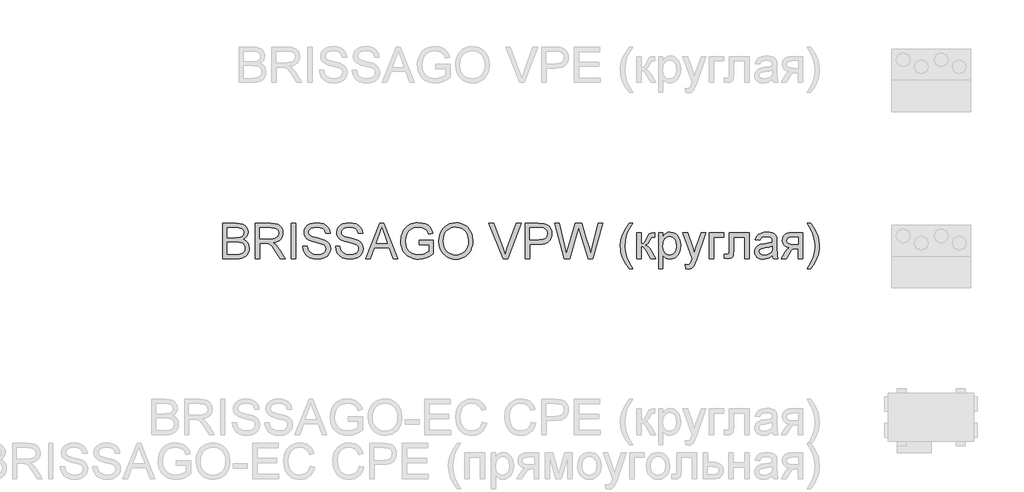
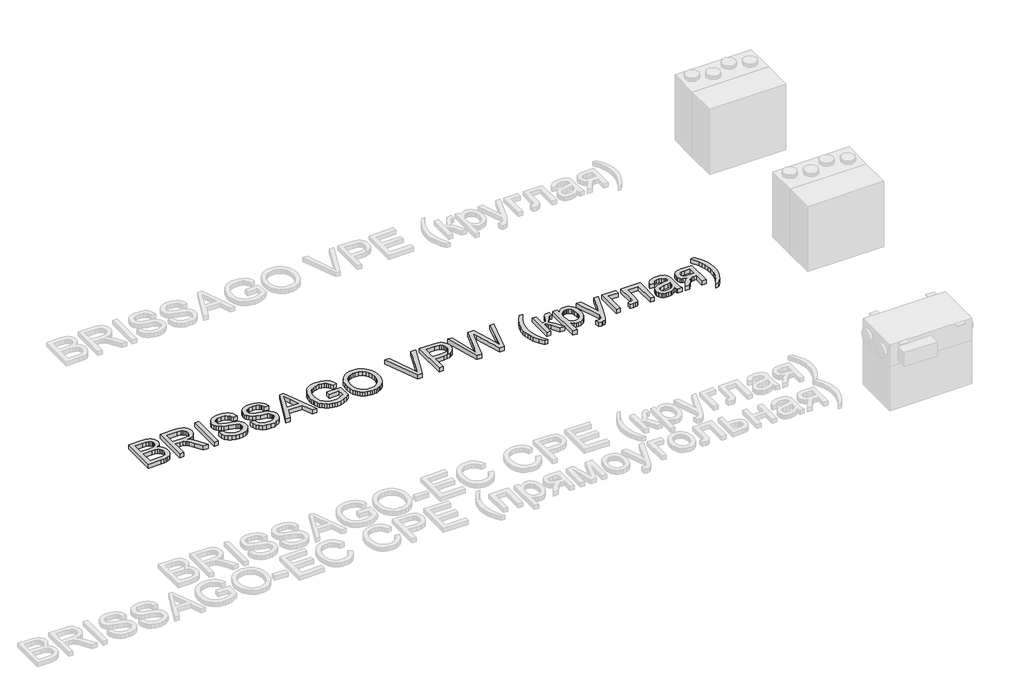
# One storey, part 13 of 28: 1 proxy.
"""IFC4 building model written with IfcOpenShell, lengths in millimetres."""

from ifc_helpers import new_model, si_unit, origin, origin_with_axes, place, context, project, spatial, polyline, outline, extrude, element, save

model = new_model("IFC4")

# Units and contexts
model_context = context("Model", 3, world=origin())
ifc_project = project(units=[si_unit("LENGTHUNIT", "METRE", prefix="MILLI")], contexts=[model_context])

# Site, building, storey
site = spatial("IfcSite", under=ifc_project)
building = spatial("IfcBuilding", under=site)
storey = spatial("IfcBuildingStorey", under=building, Name="Уровень 1", Elevation=0.0)

# Proxy
placement = place(None, origin())
element("IfcBuildingElementProxy", 1, Name="400 мм Arial", ObjectType="400 мм Arial", at=placement, inside=storey, context=model_context, shape_type="SweptSolid", body=[
    extrude(outline(polyline([(-28721.9590067, -348.6932142), (-28721.9590067, 53.1320263), (-28568.6257911, 53.1320263), (-28526.4542517, 50.1767077), (-28493.5288132, 41.3107516), (-28468.2921083, 26.3134289), (-28449.18677, 4.9640104), (-28437.1570288, -20.1500671), (-28433.147115, -46.441367), (-28436.5193667, -70.6357396), (-28446.6361215, -93.3831096), (-28463.570956, -113.2855255), (-28487.3974466, -128.9450358), (-28458.9356429, -143.8074684), (-28437.9050555, -166.4199484), (-28424.9188211, -195.2864223), (-28420.5900763, -228.9108366), (-28423.545395, -256.9311819), (-28432.411351, -282.9159135), (-28445.6428401, -305.0133587), (-28461.6947579, -321.3718447), (-28481.3519191, -333.217645), (-28505.3991389, -341.7770327), (-28534.621232, -346.9641689), (-28569.8030135, -348.6932142), (-28721.9590067, -348.6932142)]), holes=[polyline([(-28671.7308516, -110.1094776), (-28580.0056075, -110.1094776), (-28526.441989, -105.7929956), (-28507.69227, -98.3495165), (-28494.2155262, -87.2026921), (-28486.0853341, -72.5242005), (-28483.3752701, -54.48572), (-28485.9013931, -36.974537), (-28493.4797622, -21.7196969), (-28505.7670209, -9.812583), (-28522.4198125, -2.3445785), (-28547.9753485, 1.5917588), (-28586.9708399, 2.9038713), (-28671.7308516, 2.9038713), (-28671.7308516, -110.1094776)]), polyline([(-28671.7308516, -298.4650592), (-28568.723893, -298.4650592), (-28531.4451841, -296.5030219), (-28499.9054344, -285.5646639), (-28488.3294143, -276.1346221), (-28479.0097371, -263.2464895), (-28472.8661078, -247.4766146), (-28470.8182313, -229.4013459), (-28473.221727, -208.4075468), (-28480.4322141, -190.3568035), (-28493.0260411, -176.2423976), (-28511.5795564, -167.0576105), (-28537.8585936, -162.0176272), (-28573.6289863, -160.3376327), (-28671.7308516, -160.3376327), (-28671.7308516, -298.4650592)])]), origin_with_axes(), (0.0, 0.0, 1.0), 50.0),
    extrude(outline(polyline([(-28351.526363, -348.6932142), (-28351.526363, 53.1320263), (-28178.3765706, 53.1320263), (-28131.8394982, 50.4219623), (-28097.982092, 42.2917702), (-28073.2358964, 27.2821848), (-28054.0324563, 3.9339409), (-28041.7084094, -25.0183722), (-28037.6003938, -56.8401647), (-28039.301848, -77.4783447), (-28044.4062107, -96.4242674), (-28052.9134819, -113.677933), (-28064.8236615, -129.2393414), (-28080.2900337, -142.6118519), (-28099.4658827, -153.2988239), (-28122.3512085, -161.3002573), (-28148.946011, -166.6161521), (-28120.3983682, -188.1004606), (-28079.6860941, -239.8001437), (-28012.68252, -348.6932142), (-28071.0531299, -348.6932142), (-28123.3414242, -265.4047305), (-28161.1106423, -210.2714822), (-28175.1514718, -194.195039), (-28187.6471969, -184.2254369), (-28211.5350011, -174.6605051), (-28240.6712552, -172.8946715), (-28301.298208, -172.8946715), (-28301.298208, -348.6932142), (-28351.526363, -348.6932142)]), holes=[polyline([(-28301.298208, -122.6665164), (-28188.8734702, -122.6665164), (-28156.5856938, -120.8884201), (-28131.5329299, -115.5541312), (-28112.6728463, -106.3080304), (-28098.9631106, -92.7944984), (-28090.6121893, -76.4482751), (-28087.8285489, -58.7041002), (-28093.1383124, -34.2031593), (-28109.0676027, -14.4601589), (-28121.2291684, -6.8633957), (-28136.4748114, -1.4371363), (-28176.2183296, 2.9038713), (-28301.298208, 2.9038713), (-28301.298208, -122.6665164)])]), origin_with_axes(), (0.0, 0.0, 1.0), 50.0),
    extrude(outline(polyline([(-27943.4226031, -348.6932142), (-27943.4226031, 53.1320263), (-27893.194448, 53.1320263), (-27893.194448, -348.6932142), (-27943.4226031, -348.6932142)])), origin_with_axes(), (0.0, 0.0, 1.0), 50.0),
    extrude(outline(polyline([(-27811.573696, -210.5657878), (-27761.3455409, -210.5657878), (-27755.5820563, -238.4389803), (-27745.1587331, -260.8429938), (-27728.8983489, -278.6239569), (-27705.6236814, -292.6279982), (-27677.1741404, -301.7146835), (-27645.389136, -304.7435786), (-27617.4055789, -302.4504475), (-27592.904638, -295.5710541), (-27573.051273, -284.6817471), (-27559.0104436, -270.3588747), (-27550.6595223, -253.9145496), (-27547.8758818, -236.660884), (-27549.9605465, -219.8486768), (-27556.2145404, -205.317338), (-27568.918732, -192.9197148), (-27590.3539895, -182.5086543), (-27663.4889302, -163.3297396), (-27711.4975306, -150.6378108), (-27742.2156772, -138.5590186), (-27767.2193901, -121.6609723), (-27784.9390395, -101.1822079), (-27795.4972528, -77.5641838), (-27799.0166572, -51.2483584), (-27794.6633869, -21.8300615), (-27781.6035761, 5.6016726), (-27760.1805813, 28.8518147), (-27730.7377589, 45.7253355), (-27695.3965619, 55.9892432), (-27656.2784431, 59.4105457), (-27613.8984372, 55.8298276), (-27576.8159321, 45.0876734), (-27546.3553029, 27.4048122), (-27523.8409248, 3.0019731), (-27509.5916289, -26.6002647), (-27503.9262461, -59.8813226), (-27554.1544012, -59.8813226), (-27563.3759766, -29.9112027), (-27571.7391606, -18.0531397), (-27582.6039422, -8.2797414), (-27612.6476385, 4.8168576), (-27654.3164058, 9.1823907), (-27696.9661918, 4.8659086), (-27713.2694955, -0.529694), (-27726.2250731, -8.0835376), (-27743.1476449, -27.139825), (-27748.7885021, -49.7768304), (-27744.7908511, -69.0783724), (-27732.7978981, -84.6029926), (-27704.446459, -98.4844066), (-27650.7847386, -112.6601261), (-27595.4062356, -126.1246072), (-27561.9044486, -137.8723055), (-27533.2709666, -156.094727), (-27513.2949743, -178.5845797), (-27501.5595386, -205.0966088), (-27497.6477268, -235.3855597), (-27502.1481498, -266.348961), (-27515.6494191, -295.4729523), (-27537.5997114, -320.5379789), (-27567.447204, -339.3244861), (-27603.340224, -351.0599218), (-27643.4270987, -354.9717336), (-27692.6374469, -350.7533534), (-27733.1412546, -338.0982128), (-27765.4045056, -316.9572608), (-27789.8931837, -287.2814465), (-27805.6140077, -251.1309091), (-27811.573696, -210.5657878)])), origin_with_axes(), (0.0, 0.0, 1.0), 50.0),
    extrude(outline(polyline([(-27441.1410523, -210.5657878), (-27390.9128972, -210.5657878), (-27385.1494126, -238.4389803), (-27374.7260894, -260.8429938), (-27358.4657053, -278.6239569), (-27335.1910377, -292.6279982), (-27306.7414967, -301.7146835), (-27274.9564924, -304.7435786), (-27246.9729353, -302.4504475), (-27222.4719944, -295.5710541), (-27202.6186294, -284.6817471), (-27188.5777999, -270.3588747), (-27180.2268786, -253.9145496), (-27177.4432382, -236.660884), (-27179.5279028, -219.8486768), (-27185.7818967, -205.317338), (-27198.4860883, -192.9197148), (-27219.9213459, -182.5086543), (-27293.0562865, -163.3297396), (-27341.0648869, -150.6378108), (-27371.7830335, -138.5590186), (-27396.7867464, -121.6609723), (-27414.5063959, -101.1822079), (-27425.0646091, -77.5641838), (-27428.5840135, -51.2483584), (-27424.2307433, -21.8300615), (-27411.1709324, 5.6016726), (-27389.7479376, 28.8518147), (-27360.3051152, 45.7253355), (-27324.9639182, 55.9892432), (-27285.8457994, 59.4105457), (-27243.4657936, 55.8298276), (-27206.3832884, 45.0876734), (-27175.9226592, 27.4048122), (-27153.4082811, 3.0019731), (-27139.1589852, -26.6002647), (-27133.4936025, -59.8813226), (-27183.7217575, -59.8813226), (-27192.9433329, -29.9112027), (-27201.3065169, -18.0531397), (-27212.1712985, -8.2797414), (-27242.2149948, 4.8168576), (-27283.8837621, 9.1823907), (-27326.5335481, 4.8659086), (-27342.8368518, -0.529694), (-27355.7924294, -8.0835376), (-27372.7150012, -27.139825), (-27378.3558585, -49.7768304), (-27374.3582074, -69.0783724), (-27362.3652544, -84.6029926), (-27334.0138153, -98.4844066), (-27280.3520949, -112.6601261), (-27224.9735919, -126.1246072), (-27191.4718049, -137.8723055), (-27162.838323, -156.094727), (-27142.8623306, -178.5845797), (-27131.126895, -205.0966088), (-27127.2150831, -235.3855597), (-27131.7155062, -266.348961), (-27145.2167754, -295.4729523), (-27167.1670678, -320.5379789), (-27197.0145603, -339.3244861), (-27232.9075803, -351.0599218), (-27272.994455, -354.9717336), (-27322.2048033, -350.7533534), (-27362.7086109, -338.0982128), (-27394.9718619, -316.9572608), (-27419.4605401, -287.2814465), (-27435.181364, -251.1309091), (-27441.1410523, -210.5657878)])), origin_with_axes(), (0.0, 0.0, 1.0), 50.0),
    extrude(outline(polyline([(-27098.6674403, -348.6932142), (-26938.2708904, 53.1320263), (-26895.4984771, 53.1320263), (-26735.1019272, -348.6932142), (-26788.1750363, -348.6932142), (-26834.1848112, -223.1228266), (-26999.6826581, -223.1228266), (-27045.5943311, -348.6932142), (-27098.6674403, -348.6932142)]), holes=[polyline([(-26981.2395074, -172.8946715), (-26852.52986, -172.8946715), (-26888.7294483, -74.106093), (-26916.8846837, 2.9038713), (-26941.9006594, -65.4731289), (-26981.2395074, -172.8946715)])]), origin_with_axes(), (0.0, 0.0, 1.0), 50.0),
    extrude(outline(polyline([(-26493.0846253, -191.7302296), (-26493.0846253, -141.5020746), (-26329.8431213, -141.5020746), (-26329.8431213, -291.6960305), (-26369.5130631, -319.2871801), (-26410.4338037, -339.0792314), (-26452.5072412, -350.9986081), (-26495.6352738, -354.9717336), (-26524.4864192, -353.3929067), (-26551.9825327, -348.656426), (-26578.1236141, -340.7622916), (-26602.9096636, -329.7105033), (-26625.5405376, -315.6666081), (-26645.216093, -298.796153), (-26661.9363297, -279.0991378), (-26675.7012477, -256.5755627), (-26686.452599, -231.9458631), (-26694.1321356, -205.9304747), (-26698.7398576, -178.5293974), (-26700.275765, -149.7426313), (-26694.1566611, -93.1501177), (-26686.5077813, -66.3345859), (-26675.7993495, -40.5062042), (-26662.2214382, -16.7992753), (-26645.9641197, 3.651898), (-26627.027394, 20.8473156), (-26605.4112611, 34.7869775), (-26581.5847706, 45.5597886), (-26556.0169719, 53.2546537), (-26528.7078651, 57.8715727), (-26499.6574502, 59.4105457), (-26458.2829885, 55.8420904), (-26421.0778561, 45.1367243), (-26389.7465728, 28.0669997), (-26365.9936587, 5.4054688), (-26348.421162, -23.9392516), (-26335.6311313, -61.058545), (-26381.9352118, -74.106093), (-26392.2726959, -47.6308521), (-26404.8419974, -27.6548598), (-26421.4702635, -12.5962235), (-26443.9846416, -0.8730505), (-26470.8277646, 6.6685304), (-26500.4422652, 9.1823907), (-26535.1090119, 6.4723266), (-26564.7480379, -1.6578655), (-26589.2489788, -14.1903788), (-26608.5014699, -30.1074064), (-26623.2780634, -48.5873453), (-26634.3513114, -68.8085923), (-26646.1235353, -106.7249633), (-26650.0476099, -147.6824921), (-26645.3264576, -195.7156179), (-26631.1630008, -235.2384069), (-26607.9864351, -265.9688163), (-26576.2259562, -287.624803), (-26539.0576119, -300.4638847), (-26499.6574502, -304.7435786), (-26464.8680762, -301.5184797), (-26430.9370935, -291.8431833), (-26401.4697457, -278.5135923), (-26380.0712763, -264.32561), (-26380.0712763, -191.7302296), (-26493.0846253, -191.7302296)])), origin_with_axes(), (0.0, 0.0, 1.0), 50.0),
    extrude(outline(polyline([(-26267.0579274, -153.0780947), (-26263.7102013, -105.9462797), (-26253.6670228, -64.2223301), (-26236.928392, -27.9062458), (-26213.4943089, 3.0019731), (-26184.7688565, 27.6807237), (-26152.1561176, 45.3084026), (-26115.6560923, 55.8850099), (-26075.2687806, 59.4105457), (-26048.2355853, 57.7550768), (-26022.5635534, 52.7886698), (-25998.2526849, 44.5113249), (-25975.3029798, 32.9230421), (-25954.3582315, 18.3733092), (-25936.0622336, 1.2116141), (-25920.4149861, -18.5620431), (-25907.4164889, -40.9476626), (-25897.2016322, -65.4363407), (-25889.905306, -91.5191742), (-25884.068245, -148.467307), (-25885.6041523, -178.1247272), (-25890.2118743, -206.1757293), (-25897.891411, -232.6203134), (-25908.6427623, -257.4584794), (-25922.2114765, -280.0341712), (-25938.343102, -299.6913325), (-25957.0376387, -316.4299633), (-25978.2950867, -330.2500636), (-26001.2785143, -341.0657942), (-26025.1509901, -348.7913161), (-26049.9125141, -353.4266293), (-26075.5630862, -354.9717336), (-26103.0683967, -353.264148), (-26129.0776538, -348.1413913), (-26153.5908574, -339.6034633), (-26176.6080076, -327.6503641), (-26197.5282303, -312.745012), (-26215.7506518, -295.3503249), (-26231.275272, -275.4663031), (-26244.1020909, -253.0929464), (-26261.3189683, -204.4712094), (-26267.0579274, -153.0780947)]), holes=[polyline([(-26216.8297724, -153.568604), (-26214.3189777, -186.8680559), (-26206.7865939, -216.4273742), (-26194.2326208, -242.2465589), (-26176.6570585, -264.32561), (-26155.2923116, -282.0084713), (-26131.3707849, -294.6390864), (-26104.8924783, -302.2174555), (-26075.8573918, -304.7435786), (-26046.3256646, -302.1929301), (-26019.5346583, -294.5409846), (-25995.4843729, -281.7877421), (-25974.1748083, -263.9332026), (-25956.7280047, -241.3881676), (-25944.2660021, -214.5634388), (-25936.7888006, -183.4590161), (-25934.2964001, -148.0748995), (-25938.5638312, -103.6102291), (-25951.3661246, -65.1788233), (-25972.3721866, -33.7494382), (-26001.2509232, -10.2908296), (-26036.0893481, 4.3140856), (-26074.974475, 9.1823907), (-26103.0009517, 6.8371429), (-26129.0040774, -0.1986002), (-26152.9838521, -11.9248388), (-26174.9402758, -28.3415728), (-26193.2669306, -50.2397486), (-26206.3573982, -78.4103124), (-26214.2116788, -112.8532642), (-26216.8297724, -153.568604)])]), origin_with_axes(), (0.0, 0.0, 1.0), 50.0),
    extrude(outline(polyline([(-25539.33829, -348.6932142), (-25699.2443306, 53.1320263), (-25645.4845084, 53.1320263), (-25538.4553733, -236.3665784), (-25516.774861, -301.6043189), (-25495.3886543, -236.3665784), (-25388.0652136, 53.1320263), (-25334.3053914, 53.1320263), (-25487.4424033, -348.6932142), (-25539.33829, -348.6932142)])), origin_with_axes(), (0.0, 0.0, 1.0), 50.0),
    extrude(outline(polyline([(-25287.6089035, -348.6932142), (-25287.6089035, 53.1320263), (-25138.6902718, 53.1320263), (-25078.6519302, 49.3060536), (-25051.8823837, 42.1568802), (-25029.8462522, 30.5195464), (-25012.1020773, 13.8667547), (-24998.2084006, -8.3287923), (-24989.2320799, -34.5097276), (-24986.239973, -63.1186841), (-24988.2602583, -87.7851719), (-24994.3211142, -110.4773596), (-25004.4225406, -131.1952473), (-25018.5645377, -149.938835), (-25037.97951, -165.4757179), (-25063.8998622, -176.5734914), (-25096.3255944, -183.2321556), (-25135.2567065, -185.4517103), (-25237.3807484, -185.4517103), (-25237.3807484, -348.6932142), (-25287.6089035, -348.6932142)]), holes=[polyline([(-25237.3807484, -135.2235552), (-25132.3136506, -135.2235552), (-25087.7754037, -130.6127675), (-25071.171663, -124.8492829), (-25058.3448441, -116.7804045), (-25048.7737808, -106.6207301), (-25041.9373071, -94.5848574), (-25036.4681281, -64.8845177), (-25039.6932269, -42.3210887), (-25049.3685234, -23.2893268), (-25064.2922697, -8.9664544), (-25083.2627179, -0.529694), (-25133.490873, 2.9038713), (-25237.3807484, 2.9038713), (-25237.3807484, -135.2235552)])]), origin_with_axes(), (0.0, 0.0, 1.0), 50.0),
    extrude(outline(polyline([(-24845.2675925, -348.6932142), (-24954.8473761, 53.1320263), (-24903.0495912, 53.1320263), (-24839.4795824, -210.9581953), (-24819.8592093, -292.4808454), (-24798.8654101, -220.3759743), (-24719.2066955, 53.1320263), (-24644.5511759, 53.1320263), (-24586.6710753, -145.1318436), (-24561.8758289, -218.7082426), (-24543.6043564, -292.4808454), (-24524.5725945, -213.31264), (-24460.4139746, 53.1320263), (-24408.6161897, 53.1320263), (-24518.2940752, -348.6932142), (-24571.9557955, -348.6932142), (-24668.2918273, -38.6913196), (-24681.7317829, 4.571603), (-24696.8394702, -47.5204875), (-24784.6406397, -348.6932142), (-24845.2675925, -348.6932142)])), origin_with_axes(), (0.0, 0.0, 1.0), 50.0),
    extrude(outline(polyline([(-24107.2472592, -461.7065632), (-24146.1691743, -407.0883496), (-24178.5673153, -343.8862228), (-24191.3144265, -309.8326128), (-24200.4195059, -275.1658661), (-24205.8825535, -239.8859828), (-24207.7035694, -203.9929628), (-24202.2589158, -141.575651), (-24185.9249552, -81.8561404), (-24153.5022887, -14.2149042), (-24107.2472592, 53.1320263), (-24069.5761429, 53.1320263), (-24116.5669364, -26.4285865), (-24132.6065914, -64.1978046), (-24144.8202737, -103.5366527), (-24154.3116291, -153.7893332), (-24157.4754143, -204.2872684), (-24151.9817098, -268.6788803), (-24135.5005964, -333.0459667), (-24108.0320741, -397.3885277), (-24069.5761429, -461.7065632), (-24107.2472592, -461.7065632)])), origin_with_axes(), (0.0, 0.0, 1.0), 50.0),
    extrude(outline(polyline([(-24019.3479878, -53.6028032), (-23969.1198328, -53.6028032), (-23969.1198328, -179.1731909), (-23948.6901193, -176.916848), (-23935.4708929, -170.1478193), (-23923.7722455, -152.4894835), (-23907.9042688, -117.5652194), (-23884.9974832, -72.1931067), (-23875.5551787, -63.032845), (-23864.7884989, -57.4287759), (-23828.0493503, -53.6028032), (-23818.4353675, -53.6028032), (-23818.4353675, -104.1252639), (-23831.973425, -103.8309583), (-23847.6697234, -105.1553334), (-23856.4988913, -109.128459), (-23873.7648196, -142.1887876), (-23884.3720838, -164.2249191), (-23894.0228548, -177.9469176), (-23905.7092395, -187.1071792), (-23922.4233448, -195.4581005), (-23906.5063172, -202.5275662), (-23890.7364423, -215.0048972), (-23875.1137203, -232.8900935), (-23859.638151, -256.1831552), (-23805.8783288, -348.6932142), (-23862.9736144, -348.6932142), (-23915.6543161, -258.1451925), (-23929.8790866, -234.0489218), (-23942.1418198, -219.8364141), (-23954.5271803, -212.8834444), (-23969.1198328, -210.5657878), (-23969.1198328, -348.6932142), (-24019.3479878, -348.6932142), (-24019.3479878, -53.6028032)])), origin_with_axes(), (0.0, 0.0, 1.0), 50.0),
    extrude(outline(polyline([(-23774.4857318, -461.7065632), (-23774.4857318, -53.6028032), (-23724.2575768, -53.6028032), (-23724.2575768, -102.8499396), (-23707.8745653, -78.5574652), (-23689.5295164, -61.2056978), (-23668.1433098, -50.7946373), (-23642.6368248, -47.3242838), (-23608.6690539, -52.1803261), (-23578.9687141, -66.7484531), (-23554.7866043, -90.145748), (-23537.3735232, -121.489294), (-23526.8520982, -158.4982227), (-23523.3449565, -198.8916658), (-23527.3058193, -241.8480201), (-23539.1884077, -280.2671631), (-23558.6125771, -312.1993203), (-23585.1981826, -335.6947171), (-23616.1615839, -350.1524795), (-23648.7191404, -354.9717336), (-23671.809867, -351.7466348), (-23692.4235215, -342.0713383), (-23710.0695945, -327.4664231), (-23724.2575768, -309.4524681), (-23724.2575768, -461.7065632), (-23774.4857318, -461.7065632)]), holes=[polyline([(-23724.2575768, -203.5024535), (-23718.825186, -248.5312097), (-23712.0346975, -265.9688163), (-23702.5280136, -280.0219085), (-23678.4807938, -298.563161), (-23664.7189415, -303.1984742), (-23649.7982609, -304.7435786), (-23634.6629825, -303.1432919), (-23620.6497442, -298.3424318), (-23607.7585459, -290.3409984), (-23595.9893878, -279.1389917), (-23586.1822669, -264.5769961), (-23579.1771806, -246.495596), (-23574.9741288, -224.8947915), (-23573.5731115, -199.7745826), (-23579.0422905, -154.9910811), (-23585.8787643, -137.4185844), (-23595.4498275, -123.0589239), (-23619.4602591, -103.9290601), (-23633.0657615, -99.1465942), (-23647.7381218, -97.5524389), (-23662.3644968, -99.2477617), (-23676.1263491, -104.3337303), (-23701.0564856, -124.6776047), (-23711.206963, -139.7760949), (-23718.457304, -157.9463997), (-23722.8075086, -179.1885193), (-23724.2575768, -203.5024535)])]), origin_with_axes(), (0.0, 0.0, 1.0), 50.0),
    extrude(outline(polyline([(-23466.838282, -461.7065632), (-23473.1168014, -413.3423435), (-23447.6103164, -417.7569275), (-23434.1948863, -416.3712386), (-23423.7715631, -412.2141721), (-23409.1543852, -396.7631283), (-23395.420124, -359.778725), (-23391.4960494, -347.6140937), (-23498.2308789, -53.6028032), (-23445.2558716, -53.6028032), (-23388.6510953, -217.4329184), (-23368.9326204, -282.9649644), (-23349.2141454, -225.0848639), (-23291.0397392, -53.6028032), (-23238.4571394, -53.6028032), (-23341.1697925, -355.7565486), (-23367.8534998, -421.2885946), (-23381.5141846, -442.2088174), (-23396.9897539, -456.703368), (-23414.9669207, -465.1646539), (-23436.1323981, -467.9850826), (-23466.838282, -461.7065632)])), origin_with_axes(), (0.0, 0.0, 1.0), 50.0),
    extrude(outline(polyline([(-23196.8619485, -53.6028032), (-23033.6204445, -53.6028032), (-23033.6204445, -103.8309583), (-23146.6337934, -103.8309583), (-23146.6337934, -348.6932142), (-23196.8619485, -348.6932142), (-23196.8619485, -53.6028032)])), origin_with_axes(), (0.0, 0.0, 1.0), 50.0),
    extrude(outline(polyline([(-22970.8352506, -53.6028032), (-22744.8085528, -53.6028032), (-22744.8085528, -348.3989087), (-22795.0367079, -348.3989087), (-22795.0367079, -103.8309583), (-22920.6070956, -103.8309583), (-22920.6070956, -244.6071351), (-22923.9916099, -309.55057), (-22930.331443, -324.253587), (-22942.5819134, -336.9700413), (-22961.1722169, -345.762421), (-22986.5315491, -348.6932142), (-23027.3419251, -346.1425657), (-23027.3419251, -298.4650592), (-23004.8765979, -298.4650592), (-22982.1660161, -295.3748504), (-22973.0915936, -285.5646639), (-22970.8352506, -241.762181), (-22970.8352506, -53.6028032)])), origin_with_axes(), (0.0, 0.0, 1.0), 50.0),
    extrude(outline(polyline([(-22481.1107387, -311.0220979), (-22505.1089075, -331.5989642), (-22529.8183148, -345.0634452), (-22555.8030464, -352.4946615), (-22583.627188, -354.9717336), (-22605.9913476, -353.4818116), (-22625.6025236, -349.0120453), (-22642.4607161, -341.5624349), (-22656.5659249, -331.1329803), (-22667.7035523, -318.3858692), (-22675.6590005, -303.9832891), (-22680.4322693, -287.92524), (-22682.023359, -270.2117219), (-22679.6198633, -249.389601), (-22672.4093762, -230.4804665), (-22661.2870772, -214.2936587), (-22647.1481458, -201.638518), (-22630.5321424, -192.0735862), (-22611.9786271, -185.1574047), (-22568.5195007, -177.603561), (-22517.1631742, -169.6573099), (-22481.4050443, -160.3376327), (-22481.1107387, -149.1540201), (-22484.5688294, -126.7377438), (-22494.9431017, -112.071515), (-22518.1441928, -101.1822079), (-22550.4687575, -97.5524389), (-22580.3898264, -99.9681973), (-22601.2855238, -107.2154726), (-22615.5348197, -120.61864), (-22625.5166845, -141.5020746), (-22675.7448396, -135.2235552), (-22667.0260363, -107.7550329), (-22654.0152764, -86.1726225), (-22635.4985493, -69.6669836), (-22610.2618444, -57.4287759), (-22579.396545, -49.8504068), (-22543.9940344, -47.3242838), (-22510.0385262, -49.5561012), (-22483.1218269, -56.2515535), (-22462.8270035, -66.3192575), (-22448.7371231, -78.6678298), (-22439.3929204, -93.9349326), (-22433.3351302, -112.758228), (-22430.8825836, -156.7078637), (-22430.8825836, -219.1987519), (-22428.3319351, -306.4603612), (-22418.3255448, -348.6932142), (-22468.5536999, -348.6932142), (-22476.5980529, -331.2310822), (-22481.1107387, -311.0220979)]), holes=[polyline([(-22481.1107387, -210.5657878), (-22514.8577804, -218.9289718), (-22562.1428795, -225.9677807), (-22605.3567512, -234.1102355), (-22616.6016775, -239.6775163), (-22624.9280733, -247.3539873), (-22630.0784212, -256.5510372), (-22631.7952039, -266.6800548), (-22628.0550703, -281.6160638), (-22616.8346694, -293.8542715), (-22598.379256, -302.0212518), (-22572.9340847, -304.7435786), (-22545.9560717, -301.7392089), (-22522.1173184, -292.7261), (-22502.7912509, -279.44556), (-22489.3512954, -263.638897), (-22483.391607, -247.3539873), (-22481.4050443, -224.7905583), (-22481.1107387, -210.5657878)])]), origin_with_axes(), (0.0, 0.0, 1.0), 50.0),
    extrude(outline(polyline([(-22135.7921725, -53.6028032), (-22135.7921725, -348.6932142), (-22186.0203276, -348.6932142), (-22186.0203276, -235.6798653), (-22213.390748, -235.6798653), (-22235.2184131, -237.2740206), (-22250.6694569, -242.0564866), (-22265.556415, -255.962426), (-22285.6918228, -284.9270018), (-22325.7173839, -348.6932142), (-22383.7936882, -348.6932142), (-22333.3693294, -268.0534809), (-22311.100206, -239.1134306), (-22290.5969161, -226.2620863), (-22324.932569, -215.7406612), (-22338.2744227, -206.9298874), (-22349.0656279, -195.7524061), (-22363.3394493, -169.1668006), (-22368.0973897, -138.8533242), (-22366.4725776, -120.7657928), (-22361.5981412, -104.4686204), (-22353.4740804, -89.961807), (-22342.1003954, -77.2453527), (-22327.6487644, -66.9017373), (-22310.2908656, -59.5134406), (-22290.026699, -55.0804625), (-22266.8562647, -53.6028032), (-22135.7921725, -53.6028032)]), holes=[polyline([(-22186.0203276, -103.8309583), (-22252.2390867, -103.8309583), (-22286.4398496, -106.737226), (-22305.8517562, -115.4560293), (-22314.864865, -128.0743817), (-22317.8692347, -142.6792969), (-22313.442388, -161.8214234), (-22300.161848, -175.1019635), (-22275.6241189, -182.8642736), (-22237.4257051, -185.4517103), (-22186.0203276, -185.4517103), (-22186.0203276, -103.8309583)])]), origin_with_axes(), (0.0, 0.0, 1.0), 50.0),
    extrude(outline(polyline([(-22047.8929011, -461.7065632), (-22085.5640175, -461.7065632), (-22047.1080862, -397.3885277), (-22019.6395639, -333.0459667), (-22003.1584505, -268.6788803), (-21997.6647461, -204.2872684), (-22000.8285312, -154.1572152), (-22010.3198867, -104.4195695), (-22022.3128397, -65.007145), (-22038.2789183, -27.2134014), (-22085.5640175, 53.1320263), (-22047.8929011, 53.1320263), (-22001.6378716, -14.2149042), (-21969.2152051, -81.8561404), (-21952.8812445, -141.575651), (-21947.436591, -203.9929628), (-21949.2668039, -239.8859828), (-21954.7574427, -275.1658661), (-21963.9085073, -309.8326128), (-21976.7199978, -343.8862228), (-22009.1549271, -407.0883496), (-22047.8929011, -461.7065632)])), origin_with_axes(), (0.0, 0.0, 1.0), 50.0),
])

save(model, "model.ifc")
